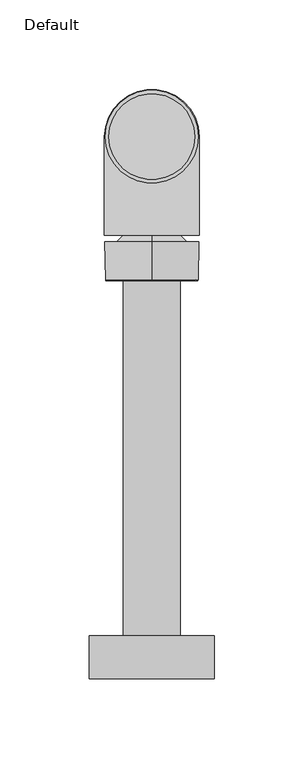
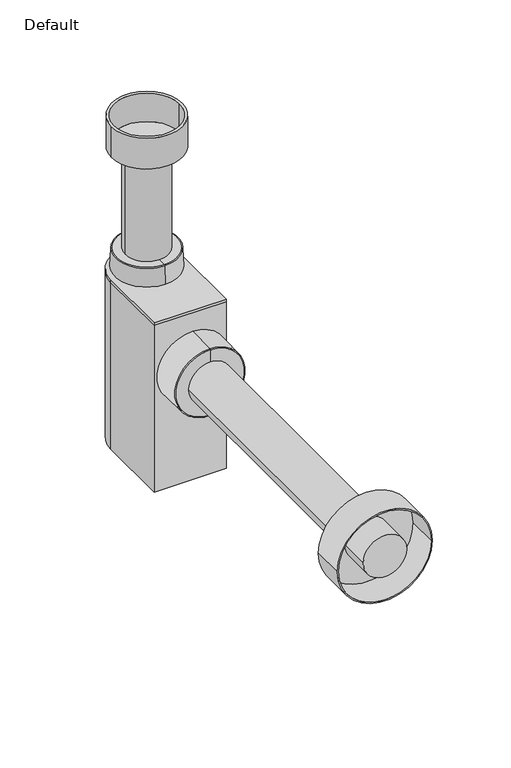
"""IFC4 building model written with IfcOpenShell, lengths in millimetres: valve geometry, NLRS_52_PIA_UN_beluchter combisifon plus_wisa : Default."""

from ifc_helpers import new_model, si_unit, point, frame, origin, origin_2d, place, context, project, spatial, polyline, circle_curve, ellipse_curve, trimmed, segment, composite_curve, outline, extrude, source, transform, mapped, element, save
from ifc_brep_helpers import plane_surface, cylinder_surface, revolved_surface, advanced_brep


def default_150fd9b6(model_context):
    return source(origin(), model_context, "Body", "SolidModel", [
        advanced_brep(
        [(-26.0, 0.0, 159.2752708), (26.0, 0.0, 159.2752708), (24.0, 0.0, 159.2752708), (-24.0, 0.0, 159.2752708), (-26.0, 0.0, 135.2752708), (26.0, 0.0, 135.2752708), (-24.0, 0.0, 137.2752708), (24.0, 0.0, 137.2752708)],
        [
            (0, 1, circle_curve(frame((0.0, 0.0, 159.2752708), z_axis=(0.0, 0.0, 1.0), x_axis=(1.0, 0.0, 0.0)), 26.0)),
            (1, 0, circle_curve(frame((0.0, 0.0, 159.2752708), z_axis=(0.0, 0.0, 1.0), x_axis=(1.0, 0.0, 0.0)), 26.0)),
            (2, 3, circle_curve(frame((0.0, 0.0, 159.2752708), z_axis=(0.0, 0.0, -1.0), x_axis=(1.0, 0.0, 0.0)), 24.0)),
            (3, 2, circle_curve(frame((0.0, 0.0, 159.2752708), z_axis=(0.0, 0.0, -1.0), x_axis=(1.0, 0.0, 0.0)), 24.0)),
            (4, 5, circle_curve(frame((0.0, 0.0, 135.2752708), z_axis=(0.0, 0.0, -1.0), x_axis=(1.0, 0.0, 0.0)), 26.0)),
            (5, 4, circle_curve(frame((0.0, 0.0, 135.2752708), z_axis=(0.0, 0.0, -1.0), x_axis=(1.0, 0.0, 0.0)), 26.0)),
            (0, 4),
            (5, 1),
            (6, 7, circle_curve(frame((0.0, 0.0, 137.2752708), z_axis=(0.0, 0.0, 1.0), x_axis=(1.0, 0.0, 0.0)), 24.0)),
            (7, 6, circle_curve(frame((0.0, 0.0, 137.2752708), z_axis=(0.0, 0.0, 1.0), x_axis=(1.0, 0.0, 0.0)), 24.0)),
            (6, 3),
            (2, 7),
        ],
        [
            plane_surface(frame((26.0, 0.0, 159.2752708), z_axis=(0.0, 0.0, 1.0), x_axis=(0.0, 1.0, 0.0))),
            plane_surface(frame((26.0, 0.0, 135.2752708), z_axis=(0.0, 0.0, -1.0), x_axis=(0.0, -1.0, 0.0))),
            cylinder_surface(frame((0.0, 0.0, 135.2752708), z_axis=(0.0, 0.0, 1.0), x_axis=(1.0, 0.0, 0.0)), 26.0),
            plane_surface(frame((24.0, 0.0, 137.2752708), z_axis=(0.0, 0.0, 1.0), x_axis=(0.0, -1.0, 0.0))),
            revolved_surface(polyline([(24.0, 0.0, 159.2752708), (24.0, 0.0, 137.2752708)]), (0.0, 0.0, 137.2752708), (0.0, 0.0, 1.0)),
        ],
        [
            (0, [[1, 2], [3, 4]]),
            (1, [[5, 6]]),
            (2, [[-1, 7, -6, 8]]),
            (2, [[-2, -8, -5, -7]]),
            (3, [[9, 10]]),
            (4, [[-9, 11, -3, 12]]),
            (4, [[-10, -12, -4, -11]]),
        ],
    ),
        extrude(outline(composite_curve([segment(polyline([(26.5, 0.0), (26.5, -55.1), (-26.5, -55.1), (-26.5, 0.0)]), True, "CONTINUOUS"), segment(trimmed(circle_curve(origin_2d(), 26.5), [point((-26.5, 0.0))], [point((26.5, 0.0))], False, "CARTESIAN"), True, "CONTINUOUS")], self_intersect=False)), frame((0.0, 0.0, 38.1), z_axis=(0.0, 0.0, 1.0), x_axis=(1.0, 0.0, 0.0)), (0.0, 0.0, 1.0), 2.0),
        advanced_brep(
        [(0.0, -55.1, -16.0988823), (0.0, -55.1, 16.0988823), (0.0, -55.1, 0.0), (0.0, -58.6925723, -19.6834235), (0.0, -58.6925723, 19.6834235), (0.0, -58.6925723, -26.3840114), (0.0, -58.6925723, 26.3840114), (0.0, -80.1030437, -26.0102903), (0.0, -80.1030437, 26.0102903), (0.0, -80.6925723, -25.4103816), (0.0, -80.6925723, 25.4103816), (0.0, -80.6925723, -16.0), (-16.0, -80.6925723, 0.0), (0.0, -80.6925723, 16.0), (16.0, -80.6925723, 0.0), (-16.0, -303.4, 0.0), (16.0, -303.4, 0.0)],
        [
            (0, 1, circle_curve(frame((0.0, -55.1, 0.0), z_axis=(0.0, 1.0, 0.0), x_axis=(0.0, 0.0, 1.0)), 16.0988823)),
            (1, 2),
            (2, 0),
            (1, 0, circle_curve(frame((0.0, -55.1, 0.0), z_axis=(0.0, 1.0, 0.0), x_axis=(0.0, 0.0, 1.0)), 16.0988823)),
            (0, 3),
            (3, 4, circle_curve(frame((0.0, -58.6925723, 0.0), z_axis=(0.0, 1.0, 0.0), x_axis=(0.0, 0.0, 1.0)), 19.6834235)),
            (4, 1),
            (4, 3, circle_curve(frame((0.0, -58.6925723, 0.0), z_axis=(0.0, 1.0, 0.0), x_axis=(0.0, 0.0, 1.0)), 19.6834235)),
            (3, 5),
            (5, 6, circle_curve(frame((0.0, -58.6925723, 0.0), z_axis=(0.0, 1.0, 0.0), x_axis=(0.0, 0.0, 1.0)), 26.3840114)),
            (6, 4),
            (6, 5, circle_curve(frame((0.0, -58.6925723, 0.0), z_axis=(0.0, 1.0, 0.0), x_axis=(0.0, 0.0, 1.0)), 26.3840114)),
            (5, 7),
            (7, 8, circle_curve(frame((0.0, -80.1030437, 0.0), z_axis=(0.0, 1.0, 0.0), x_axis=(0.0, 0.0, 1.0)), 26.0102903)),
            (8, 6),
            (8, 7, circle_curve(frame((0.0, -80.1030437, 0.0), z_axis=(0.0, 1.0, 0.0), x_axis=(0.0, 0.0, 1.0)), 26.0102903)),
            (7, 9, circle_curve(frame((0.0, -80.0925723, -25.4103816), z_axis=(-1.0, 0.0, 0.0), x_axis=(0.0, 1.0, 0.0)), 0.6)),
            (9, 10, circle_curve(frame((0.0, -80.6925723, 0.0), z_axis=(0.0, 1.0, 0.0), x_axis=(0.0, 0.0, 1.0)), 25.4103816)),
            (10, 8, circle_curve(frame((0.0, -80.0925723, 25.4103816), z_axis=(-1.0, 0.0, 0.0), x_axis=(0.0, 1.0, 0.0)), 0.6)),
            (10, 9, circle_curve(frame((0.0, -80.6925723, 0.0), z_axis=(0.0, 1.0, 0.0), x_axis=(0.0, 0.0, 1.0)), 25.4103816)),
            (9, 11),
            (11, 12, circle_curve(frame((0.0, -80.6925723, 0.0), z_axis=(0.0, 1.0, 0.0), x_axis=(1.0, 0.0, 0.0)), 16.0)),
            (12, 13, circle_curve(frame((0.0, -80.6925723, 0.0), z_axis=(0.0, 1.0, 0.0), x_axis=(1.0, 0.0, 0.0)), 16.0)),
            (13, 10),
            (13, 14, circle_curve(frame((0.0, -80.6925723, 0.0), z_axis=(0.0, 1.0, 0.0), x_axis=(1.0, 0.0, 0.0)), 16.0)),
            (14, 11, circle_curve(frame((0.0, -80.6925723, 0.0), z_axis=(0.0, 1.0, 0.0), x_axis=(1.0, 0.0, 0.0)), 16.0)),
            (15, 16, circle_curve(frame((0.0, -303.4, 0.0), z_axis=(0.0, -1.0, 0.0), x_axis=(1.0, 0.0, 0.0)), 16.0)),
            (16, 15, circle_curve(frame((0.0, -303.4, 0.0), z_axis=(0.0, -1.0, 0.0), x_axis=(1.0, 0.0, 0.0)), 16.0)),
            (15, 12),
            (14, 16),
        ],
        [
            plane_surface(frame((0.0, -55.1, 0.0), z_axis=(0.0, 1.0, 0.0), x_axis=(0.0, 0.0, 1.0))),
            revolved_surface(polyline([(0.0, -55.1, 16.0988823), (0.0, -58.6925723, 19.6834235)]), (0.0, -80.6925723, 0.0), (0.0, -1.0, 0.0)),
            plane_surface(frame((0.0, -58.6925723, 0.0), z_axis=(0.0, 1.0, 0.0), x_axis=(0.0, 0.0, 1.0))),
            revolved_surface(polyline([(0.0, -58.6925723, 26.3840114), (0.0, -80.1030437, 26.0102903)]), (0.0, -80.6925723, 0.0), (0.0, -1.0, 0.0)),
            revolved_surface(trimmed(ellipse_curve(frame((0.0, -80.0925723, 25.4103816), z_axis=(1.0, 0.0, 0.0), x_axis=(0.0, 1.0, 0.0)), 0.6, 0.6), [point((0.0, -80.1030437, 26.0102903))], [point((0.0, -80.6925723, 25.4103816))], True, "CARTESIAN"), (0.0, -80.6925723, 0.0), (0.0, -1.0, 0.0)),
            plane_surface(frame((0.0, -80.6925723, 0.0), z_axis=(0.0, -1.0, 0.0), x_axis=(0.0, 0.0, 1.0))),
            plane_surface(frame((16.0, -303.4, 0.0), z_axis=(0.0, -1.0, 0.0), x_axis=(0.0, 0.0, 1.0))),
            cylinder_surface(frame((0.0, -74.4, 0.0), z_axis=(0.0, -1.0, 0.0), x_axis=(1.0, 0.0, 0.0)), 16.0),
        ],
        [
            (0, [[1, 2, 3]]),
            (0, [[-2, 4, -3]]),
            (1, [[-1, 5, 6, 7]]),
            (1, [[-4, -7, 8, -5]]),
            (2, [[-6, 9, 10, 11]]),
            (2, [[-8, -11, 12, -9]]),
            (3, [[-10, 13, 14, 15]]),
            (3, [[-12, -15, 16, -13]]),
            (4, [[-14, 17, 18, 19]]),
            (4, [[-16, -19, 20, -17]]),
            (5, [[-18, 21, 22, 23, 24]]),
            (5, [[-20, -24, 25, 26, -21]]),
            (6, [[27, 28]]),
            (7, [[-27, 29, -22, -26, 30]]),
            (7, [[-28, -30, -25, -23, -29]]),
        ],
    ),
        advanced_brep(
        [(-35.0, -303.4, 0.0), (35.0, -303.4, 0.0), (34.0, -303.4, 0.0), (-34.0, -303.4, 0.0), (-35.0, -279.4, 0.0), (35.0, -279.4, 0.0), (-34.0, -280.4, 0.0), (34.0, -280.4, 0.0)],
        [
            (0, 1, circle_curve(frame((0.0, -303.4, 0.0), z_axis=(0.0, -1.0, 0.0), x_axis=(1.0, 0.0, 0.0)), 35.0)),
            (1, 0, circle_curve(frame((0.0, -303.4, 0.0), z_axis=(0.0, -1.0, 0.0), x_axis=(1.0, 0.0, 0.0)), 35.0)),
            (2, 3, circle_curve(frame((0.0, -303.4, 0.0), z_axis=(0.0, 1.0, 0.0), x_axis=(1.0, 0.0, 0.0)), 34.0)),
            (3, 2, circle_curve(frame((0.0, -303.4, 0.0), z_axis=(0.0, 1.0, 0.0), x_axis=(1.0, 0.0, 0.0)), 34.0)),
            (4, 5, circle_curve(frame((0.0, -279.4, 0.0), z_axis=(0.0, 1.0, 0.0), x_axis=(1.0, 0.0, 0.0)), 35.0)),
            (5, 4, circle_curve(frame((0.0, -279.4, 0.0), z_axis=(0.0, 1.0, 0.0), x_axis=(1.0, 0.0, 0.0)), 35.0)),
            (0, 4),
            (5, 1),
            (6, 7, circle_curve(frame((0.0, -280.4, 0.0), z_axis=(0.0, -1.0, 0.0), x_axis=(1.0, 0.0, 0.0)), 34.0)),
            (7, 6, circle_curve(frame((0.0, -280.4, 0.0), z_axis=(0.0, -1.0, 0.0), x_axis=(1.0, 0.0, 0.0)), 34.0)),
            (6, 3),
            (2, 7),
        ],
        [
            plane_surface(frame((35.0, -303.4, 0.0), z_axis=(0.0, -1.0, 0.0), x_axis=(0.0, 0.0, 1.0))),
            plane_surface(frame((35.0, -279.4, 0.0), z_axis=(0.0, 1.0, 0.0), x_axis=(0.0, 0.0, -1.0))),
            cylinder_surface(frame((0.0, -279.4, 0.0), z_axis=(0.0, -1.0, 0.0), x_axis=(1.0, 0.0, 0.0)), 35.0),
            plane_surface(frame((34.0, -280.4, 0.0), z_axis=(0.0, -1.0, 0.0), x_axis=(0.0, 0.0, -1.0))),
            revolved_surface(polyline([(34.0, -303.4, 0.0), (34.0, -280.4, 0.0)]), (0.0, -280.4, 0.0), (0.0, -1.0, 0.0)),
        ],
        [
            (0, [[1, 2], [3, 4]]),
            (1, [[5, 6]]),
            (2, [[-1, 7, -6, 8]]),
            (2, [[-2, -8, -5, -7]]),
            (3, [[9, 10]]),
            (4, [[-9, 11, -3, 12]]),
            (4, [[-10, -12, -4, -11]]),
        ],
    ),
        extrude(outline(composite_curve([segment(trimmed(circle_curve(origin_2d(), 26.5), [point((-26.5, 0.0))], [point((26.5, 0.0))], False, "CARTESIAN"), True, "CONTINUOUS"), segment(polyline([(26.5, 0.0), (26.5, -55.1), (-26.5, -55.1), (-26.5, 0.0)]), True, "CONTINUOUS")], self_intersect=False)), frame((0.0, 0.0, -91.6007452), z_axis=(0.0, 0.0, 1.0), x_axis=(1.0, 0.0, 0.0)), (0.0, 0.0, 1.0), 129.7007452),
        advanced_brep(
        [(0.0, -23.5063512, 41.7752708), (0.0, 23.5063512, 41.7752708), (0.0, 16.0, 41.7752708), (-16.0, 0.0, 41.7752708), (0.0, -16.0, 41.7752708), (16.0, 0.0, 41.7752708), (0.0, -23.0202212, 55.6962105), (0.0, 23.0202212, 55.6962105), (0.0, -22.4205867, 56.2752708), (0.0, 22.4205867, 56.2752708), (0.0, -16.0, 56.2752708), (-16.0, 0.0, 56.2752708), (0.0, 16.0, 56.2752708), (16.0, 0.0, 56.2752708), (-16.0, 0.0, 38.1), (16.0, 0.0, 38.1), (-16.0, 0.0, 137.2752708), (16.0, 0.0, 137.2752708)],
        [
            (0, 1, circle_curve(frame((0.0, 0.0, 41.7752708), z_axis=(0.0, 0.0, -1.0), x_axis=(0.0, 1.0, 0.0)), 23.5063512)),
            (1, 2),
            (2, 3, circle_curve(frame((0.0, 0.0, 41.7752708), z_axis=(0.0, 0.0, 1.0), x_axis=(1.0, 0.0, 0.0)), 16.0)),
            (3, 4, circle_curve(frame((0.0, 0.0, 41.7752708), z_axis=(0.0, 0.0, 1.0), x_axis=(1.0, 0.0, 0.0)), 16.0)),
            (4, 0),
            (1, 0, circle_curve(frame((0.0, 0.0, 41.7752708), z_axis=(0.0, 0.0, -1.0), x_axis=(0.0, 1.0, 0.0)), 23.5063512)),
            (4, 5, circle_curve(frame((0.0, 0.0, 41.7752708), z_axis=(0.0, 0.0, 1.0), x_axis=(1.0, 0.0, 0.0)), 16.0)),
            (5, 2, circle_curve(frame((0.0, 0.0, 41.7752708), z_axis=(0.0, 0.0, 1.0), x_axis=(1.0, 0.0, 0.0)), 16.0)),
            (0, 6),
            (6, 7, circle_curve(frame((0.0, 0.0, 55.6962105), z_axis=(0.0, 0.0, -1.0), x_axis=(0.0, 1.0, 0.0)), 23.0202212)),
            (7, 1),
            (7, 6, circle_curve(frame((0.0, 0.0, 55.6962105), z_axis=(0.0, 0.0, -1.0), x_axis=(0.0, 1.0, 0.0)), 23.0202212)),
            (6, 8, circle_curve(frame((0.0, -22.4205867, 55.6752708), z_axis=(-1.0, 0.0, 0.0), x_axis=(0.0, -1.0, 0.0)), 0.6)),
            (8, 9, circle_curve(frame((0.0, 0.0, 56.2752708), z_axis=(0.0, 0.0, -1.0), x_axis=(0.0, 1.0, 0.0)), 22.4205867)),
            (9, 7, circle_curve(frame((0.0, 22.4205867, 55.6752708), z_axis=(-1.0, 0.0, 0.0), x_axis=(0.0, 1.0, 0.0)), 0.6)),
            (9, 8, circle_curve(frame((0.0, 0.0, 56.2752708), z_axis=(0.0, 0.0, -1.0), x_axis=(0.0, 1.0, 0.0)), 22.4205867)),
            (8, 10),
            (10, 11, circle_curve(frame((0.0, 0.0, 56.2752708), z_axis=(0.0, 0.0, -1.0), x_axis=(1.0, 0.0, 0.0)), 16.0)),
            (11, 12, circle_curve(frame((0.0, 0.0, 56.2752708), z_axis=(0.0, 0.0, -1.0), x_axis=(1.0, 0.0, 0.0)), 16.0)),
            (12, 9),
            (12, 13, circle_curve(frame((0.0, 0.0, 56.2752708), z_axis=(0.0, 0.0, -1.0), x_axis=(1.0, 0.0, 0.0)), 16.0)),
            (13, 10, circle_curve(frame((0.0, 0.0, 56.2752708), z_axis=(0.0, 0.0, -1.0), x_axis=(1.0, 0.0, 0.0)), 16.0)),
            (14, 15, circle_curve(frame((0.0, 0.0, 38.1), z_axis=(0.0, 0.0, -1.0), x_axis=(1.0, 0.0, 0.0)), 16.0)),
            (15, 14, circle_curve(frame((0.0, 0.0, 38.1), z_axis=(0.0, 0.0, -1.0), x_axis=(1.0, 0.0, 0.0)), 16.0)),
            (16, 17, circle_curve(frame((0.0, 0.0, 137.2752708), z_axis=(0.0, 0.0, 1.0), x_axis=(1.0, 0.0, 0.0)), 16.0)),
            (17, 16, circle_curve(frame((0.0, 0.0, 137.2752708), z_axis=(0.0, 0.0, 1.0), x_axis=(1.0, 0.0, 0.0)), 16.0)),
            (15, 5),
            (3, 14),
            (16, 11),
            (13, 17),
        ],
        [
            plane_surface(frame((0.0, 0.0, 41.7752708), z_axis=(0.0, 0.0, -1.0), x_axis=(0.0, 1.0, 0.0))),
            revolved_surface(polyline([(0.0, 23.5063512, 41.7752708), (0.0, 23.0202212, 55.6962105)]), (0.0, 0.0, 56.2752708), (0.0, 0.0, 1.0)),
            revolved_surface(trimmed(ellipse_curve(frame((0.0, 22.4205867, 55.6752708), z_axis=(1.0, 0.0, 0.0), x_axis=(0.0, 1.0, 0.0)), 0.6, 0.6), [point((0.0, 23.0202212, 55.6962105))], [point((0.0, 22.4205867, 56.2752708))], True, "CARTESIAN"), (0.0, 0.0, 56.2752708), (0.0, 0.0, 1.0)),
            plane_surface(frame((0.0, 0.0, 56.2752708), z_axis=(0.0, 0.0, 1.0), x_axis=(0.0, 1.0, 0.0))),
            plane_surface(frame((16.0, 0.0, 38.1), z_axis=(0.0, 0.0, -1.0), x_axis=(0.0, -1.0, 0.0))),
            plane_surface(frame((16.0, 0.0, 137.2752708), z_axis=(0.0, 0.0, 1.0), x_axis=(0.0, 1.0, 0.0))),
            cylinder_surface(frame((0.0, 0.0, 38.1), z_axis=(0.0, 0.0, 1.0), x_axis=(1.0, 0.0, 0.0)), 16.0),
        ],
        [
            (0, [[1, 2, 3, 4, 5]]),
            (0, [[6, -5, 7, 8, -2]]),
            (1, [[-1, 9, 10, 11]]),
            (1, [[-6, -11, 12, -9]]),
            (2, [[-10, 13, 14, 15]]),
            (2, [[-12, -15, 16, -13]]),
            (3, [[-14, 17, 18, 19, 20]]),
            (3, [[-16, -20, 21, 22, -17]]),
            (4, [[23, 24]]),
            (5, [[25, 26]]),
            (6, [[-24, 27, -7, -4, 28]]),
            (6, [[-25, 29, -18, -22, 30]]),
            (6, [[-23, -28, -3, -8, -27]]),
            (6, [[-26, -30, -21, -19, -29]]),
        ],
    ),
    ])


if __name__ == "__main__":
    model = new_model("IFC4")
    model_context = context("Model", 3, world=origin())
    ifc_project = project(units=[si_unit("LENGTHUNIT", "METRE", prefix="MILLI")], contexts=[model_context])
    site = spatial("IfcSite", under=ifc_project)
    building = spatial("IfcBuilding", under=site)
    placement = place(None, origin())
    default_shape = default_150fd9b6(model_context)
    element("IfcValve", 1, ObjectType="NLRS_52_PIA_UN_beluchter combisifon plus_wisa : Default", at=placement, inside=building, context=model_context, shape_type="MappedRepresentation", body=[
        mapped(default_shape, transform((0.0, 0.0, 0.0), x_axis=(1.0, 0.0, 0.0), y_axis=(0.0, 1.0, 0.0), z_axis=(0.0, 0.0, 1.0))),
    ])
    save(model, "model.ifc")
